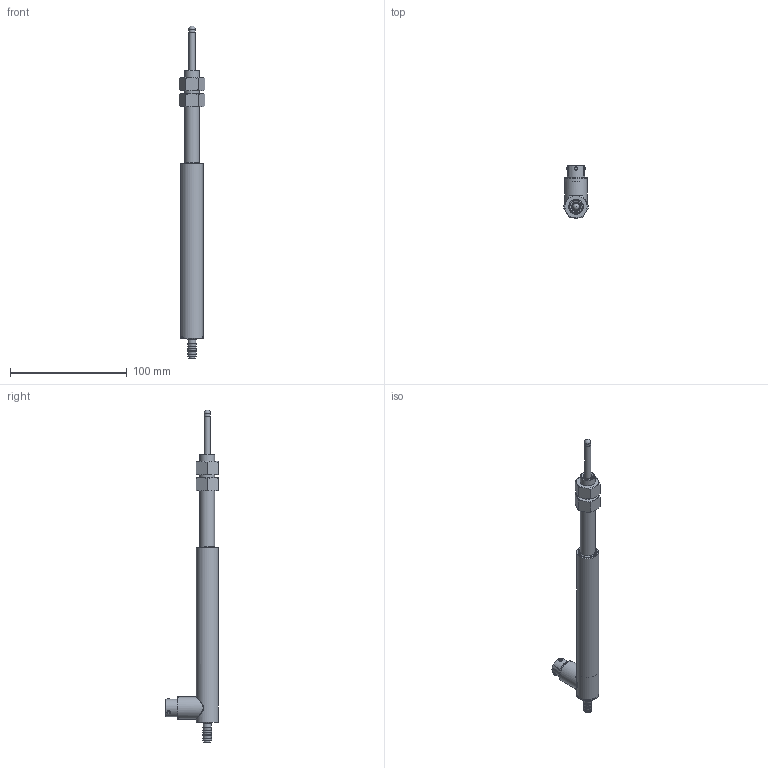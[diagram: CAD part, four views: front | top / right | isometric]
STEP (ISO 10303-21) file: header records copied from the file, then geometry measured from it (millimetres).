
FILE_DESCRIPTION(/* description */ (''),/* implementation_level */ '2;1');
FILE_NAME(/* name */ 'GHRA-750-A-500 ASS''Y.iam.stp',/* time_stamp */ '2023-11-09T15:21:32-05:00',/* author */ ('J. Nielson'),/* organization */ (''),/* preprocessor_version */ 'ST-DEVELOPER v20',/* originating_system */ 'Autodesk Inventor 2024',/* authorisation */ '');
FILE_SCHEMA (('AUTOMOTIVE_DESIGN { 1 0 10303 214 3 1 1 }'));
Length unit declared in the file: inch
Products named in the file (4): GHRA-750-A-500 Assembly; GHRA-750-A-500 HOUSING_SW; GHRA-750-A-500 SHAFT_SW; AS 2465 - 1/2  UNF
Assembly tree (4 placements, depth 2):
  GHRA-750-A-500 Assembly
    GHRA-750-A-500 HOUSING_SW
    GHRA-750-A-500 SHAFT_SW
    AS 2465 - 1/2  UNF  x2
Bounding box: 22 x 45.24 x 284.77 mm (x, y, z)
Volume: 30870 mm3; surface area: 34188.7 mm2
Topology: 17 solids, 17 shells, 222 faces, 441 edges, 283 vertices
Faces by surface type: plane 88, cylinder 74, cone 47, bspline 7, torus 5, sphere 1
Full cylindrical faces by diameter (mm): 0.762 x12, 2.032 x3, 2.845 x3, 3.048 x3, 4.762 x1, 4.826 x2, 5.334 x4, 5.397 x1, 6 x1, 6.731 x1, 7.493 x4, 7.671 x2, 7.874 x1, 11.328 x2, 12.7 x1, 13.208 x1, 14.986 x1, 15.748 x2, 16.51 x1, 17.018 x1, 17.069 x1, 17.78 x1, 18.034 x1, 18.415 x6, 19.05 x2
Entity records: 7608 total; most frequent: CARTESIAN_POINT 2997, DIRECTION 946, ORIENTED_EDGE 778, AXIS2_PLACEMENT_3D 405, EDGE_CURVE 389, EDGE_LOOP 257, VERTEX_POINT 254, CIRCLE 205
